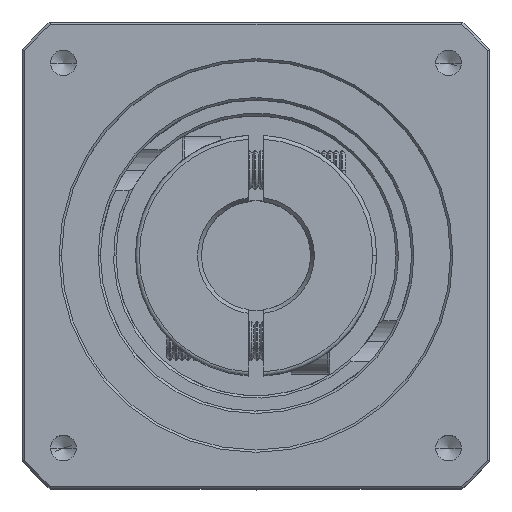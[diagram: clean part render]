
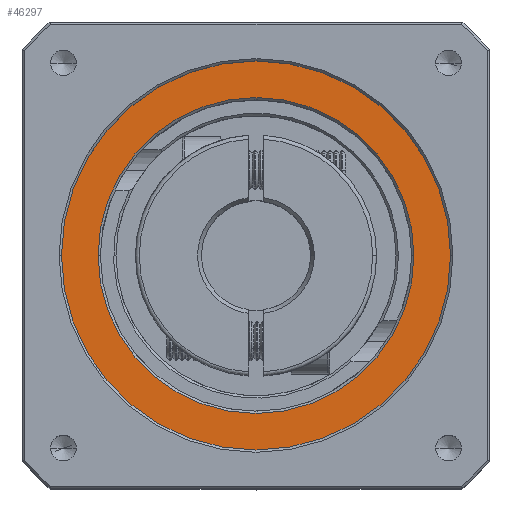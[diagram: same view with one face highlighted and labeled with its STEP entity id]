
A CAD part, top view. The second image highlights one B-rep face of the part: STEP entity #46297.
In plain terms, the highlighted planar face has unit normal (0, 0, 1).
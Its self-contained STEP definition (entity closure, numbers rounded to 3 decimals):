
#1869 = DIRECTION ( 'NONE',  ( 0., 0., 1. ) ) ;
#3021 = EDGE_CURVE ( 'NONE', #67313, #17424, #71421, .T. ) ;
#5671 = FACE_BOUND ( 'NONE', #30181, .T. ) ;
#6083 = ORIENTED_EDGE ( 'NONE', *, *, #45572, .T. ) ;
#9134 = CARTESIAN_POINT ( 'NONE',  ( -46.35, 15.141, 12.222 ) ) ;
#9400 = EDGE_LOOP ( 'NONE', ( #92783, #6083 ) ) ;
#9597 = VERTEX_POINT ( 'NONE', #36979 ) ;
#10476 = CARTESIAN_POINT ( 'NONE',  ( -66.65, 15.141, 12.222 ) ) ;
#13363 = ORIENTED_EDGE ( 'NONE', *, *, #3021, .T. ) ;
#16666 = AXIS2_PLACEMENT_3D ( 'NONE', #85233, #40204, #92778 ) ;
#17424 = VERTEX_POINT ( 'NONE', #9134 ) ;
#18025 = DIRECTION ( 'NONE',  ( 1., 0., 0. ) ) ;
#22177 = VERTEX_POINT ( 'NONE', #85234 ) ;
#26081 = CARTESIAN_POINT ( 'NONE',  ( -66.65, 15.141, 12.222 ) ) ;
#30181 = EDGE_LOOP ( 'NONE', ( #72369, #13363 ) ) ;
#33618 = DIRECTION ( 'NONE',  ( 1., 0., 0. ) ) ;
#34827 = AXIS2_PLACEMENT_3D ( 'NONE', #37317, #89926, #44897 ) ;
#34881 = CIRCLE ( 'NONE', #84650, 20.3 ) ;
#36979 = CARTESIAN_POINT ( 'NONE',  ( -91.65, 15.141, 12.222 ) ) ;
#37317 = CARTESIAN_POINT ( 'NONE',  ( -66.65, 15.141, 12.222 ) ) ;
#40204 = DIRECTION ( 'NONE',  ( 0., 0., 1. ) ) ;
#44897 = DIRECTION ( 'NONE',  ( 1., 0., 0. ) ) ;
#45572 = EDGE_CURVE ( 'NONE', #9597, #22177, #79916, .T. ) ;
#46297 = ADVANCED_FACE ( 'NONE', ( #5671, #65684 ), #91667, .T. ) ;
#46977 = CARTESIAN_POINT ( 'NONE',  ( -66.65, 15.141, 12.222 ) ) ;
#48155 = EDGE_CURVE ( 'NONE', #22177, #9597, #94011, .T. ) ;
#54528 = DIRECTION ( 'NONE',  ( 1., 0., 0. ) ) ;
#55603 = AXIS2_PLACEMENT_3D ( 'NONE', #46977, #1869, #54528 ) ;
#63066 = DIRECTION ( 'NONE',  ( 0., 0., -1. ) ) ;
#64921 = AXIS2_PLACEMENT_3D ( 'NONE', #26081, #78669, #33618 ) ;
#65684 = FACE_OUTER_BOUND ( 'NONE', #9400, .T. ) ;
#67313 = VERTEX_POINT ( 'NONE', #84264 ) ;
#71421 = CIRCLE ( 'NONE', #34827, 20.3 ) ;
#72369 = ORIENTED_EDGE ( 'NONE', *, *, #87198, .T. ) ;
#78669 = DIRECTION ( 'NONE',  ( 0., 0., 1. ) ) ;
#79916 = CIRCLE ( 'NONE', #64921, 25. ) ;
#84264 = CARTESIAN_POINT ( 'NONE',  ( -86.95, 15.141, 12.222 ) ) ;
#84650 = AXIS2_PLACEMENT_3D ( 'NONE', #10476, #63066, #18025 ) ;
#85233 = CARTESIAN_POINT ( 'NONE',  ( -66.65, 15.141, 12.222 ) ) ;
#85234 = CARTESIAN_POINT ( 'NONE',  ( -41.65, 15.141, 12.222 ) ) ;
#87198 = EDGE_CURVE ( 'NONE', #17424, #67313, #34881, .T. ) ;
#89926 = DIRECTION ( 'NONE',  ( 0., 0., -1. ) ) ;
#91667 = PLANE ( 'NONE',  #55603 ) ;
#92778 = DIRECTION ( 'NONE',  ( 1., 0., 0. ) ) ;
#92783 = ORIENTED_EDGE ( 'NONE', *, *, #48155, .T. ) ;
#94011 = CIRCLE ( 'NONE', #16666, 25. ) ;
